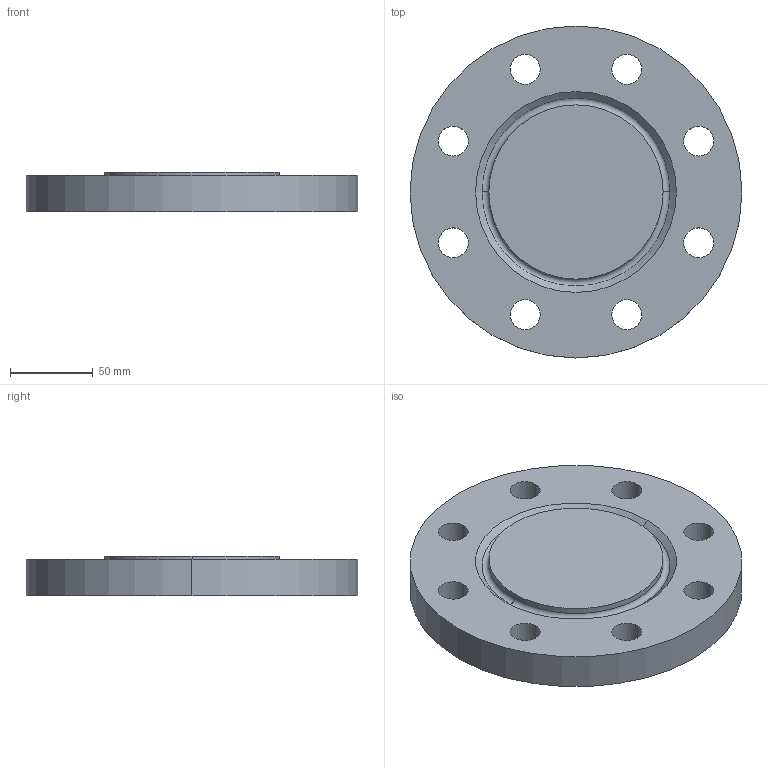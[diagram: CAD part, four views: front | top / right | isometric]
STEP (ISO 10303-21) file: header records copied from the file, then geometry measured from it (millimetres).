
FILE_DESCRIPTION (( 'STEP AP214' ), '1' );
FILE_NAME ('PN40 DN80 Type 05 - Type H Face.STEP', '2019-01-01T19:43:36', ( '' ), ( '' ), 'SwSTEP 2.0', 'SolidWorks 2019', '' );
FILE_SCHEMA (( 'AUTOMOTIVE_DESIGN' ));
Length unit declared in the file: millimetre
Products named in the file (1): PN40 DN80 Type 05 - Type H Face
Bounding box: 200 x 200 x 24 mm (x, y, z)
Volume: 656183.8 mm3; surface area: 84685.8 mm2
Topology: 1 solids, 1 shells, 27 faces, 68 edges, 44 vertices
Faces by surface type: cylinder 20, plane 3, torus 2, cone 2
Entity records: 902 total; most frequent: DIRECTION 170, CARTESIAN_POINT 140, ORIENTED_EDGE 136, AXIS2_PLACEMENT_3D 74, EDGE_CURVE 68, CIRCLE 46, EDGE_LOOP 44, VERTEX_POINT 44
